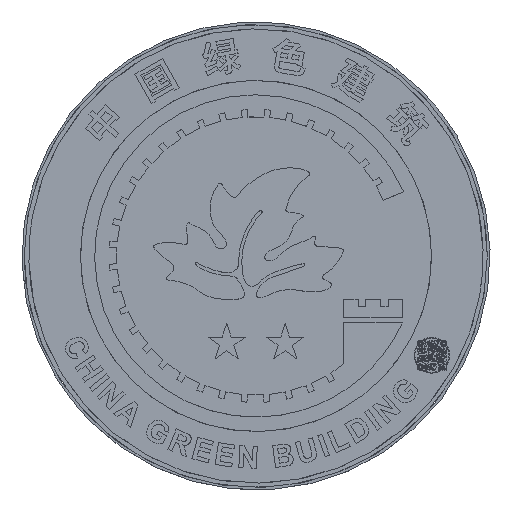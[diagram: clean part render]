
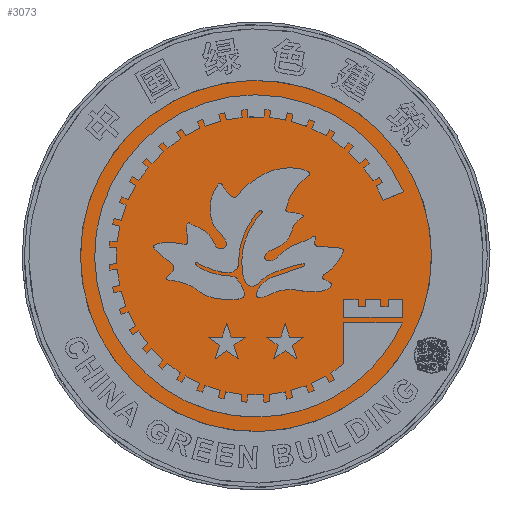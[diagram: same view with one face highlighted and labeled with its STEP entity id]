
A CAD part, top view. The second image highlights one B-rep face of the part: STEP entity #3073.
In plain terms, the highlighted planar face has unit normal (0, 0, 1).
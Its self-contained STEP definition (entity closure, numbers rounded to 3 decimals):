
#3073=ADVANCED_FACE('',(#5339),#32824,.T.);
#5339=FACE_OUTER_BOUND('',#7605,.T.);
#7605=EDGE_LOOP('',(#13247,#13248));
#13247=ORIENTED_EDGE('',*,*,#21331,.T.);
#13248=ORIENTED_EDGE('',*,*,#21334,.T.);
#21331=EDGE_CURVE('',#30754,#30756,#26377,.T.);
#21334=EDGE_CURVE('',#30756,#30754,#26380,.T.);
#26377=B_SPLINE_CURVE_WITH_KNOTS('',3,(#49963,#49964,#49965,#49966,#49967,
#49968,#49969,#49970,#49971,#49972,#49973,#49974,#49975),.UNSPECIFIED.,
 .F.,.F.,(4,3,3,3,4),(-9.,-8.,-7.,-6.,-5.),.UNSPECIFIED.);
#26380=B_SPLINE_CURVE_WITH_KNOTS('',3,(#49991,#49992,#49993,#49994,#49995,
#49996,#49997,#49998,#49999,#50000,#50001,#50002,#50003),.UNSPECIFIED.,
 .F.,.F.,(4,3,3,3,4),(-5.,-4.,-3.,-2.,-1.),.UNSPECIFIED.);
#30754=VERTEX_POINT('',#49945);
#30756=VERTEX_POINT('',#49947);
#32824=PLANE('',#33647);
#33647=AXIS2_PLACEMENT_3D('',#49917,#34453,$);
#34453=DIRECTION('',(0.,0.,1.));
#49917=CARTESIAN_POINT('',(10506.871,2853.292,-10.));
#49945=CARTESIAN_POINT('',(10408.878,2490.165,-10.));
#49947=CARTESIAN_POINT('',(10135.962,2747.521,-10.));
#49963=CARTESIAN_POINT('',(10408.878,2490.165,-10.));
#49964=CARTESIAN_POINT('',(10443.054,2526.41,-10.));
#49965=CARTESIAN_POINT('',(10461.36,2574.547,-10.));
#49966=CARTESIAN_POINT('',(10459.9,2624.34,-10.));
#49967=CARTESIAN_POINT('',(10458.439,2674.14,-10.));
#49968=CARTESIAN_POINT('',(10437.341,2721.123,-10.));
#49969=CARTESIAN_POINT('',(10401.096,2755.299,-10.));
#49970=CARTESIAN_POINT('',(10364.855,2789.479,-10.));
#49971=CARTESIAN_POINT('',(10316.714,2807.781,-10.));
#49972=CARTESIAN_POINT('',(10266.922,2806.321,-10.));
#49973=CARTESIAN_POINT('',(10217.122,2804.861,-10.));
#49974=CARTESIAN_POINT('',(10170.142,2783.766,-10.));
#49975=CARTESIAN_POINT('',(10135.962,2747.521,-10.));
#49991=CARTESIAN_POINT('',(10135.962,2747.521,-10.));
#49992=CARTESIAN_POINT('',(10101.786,2711.276,-10.));
#49993=CARTESIAN_POINT('',(10083.48,2663.141,-10.));
#49994=CARTESIAN_POINT('',(10084.94,2613.343,-10.));
#49995=CARTESIAN_POINT('',(10086.401,2563.547,-10.));
#49996=CARTESIAN_POINT('',(10107.496,2516.564,-10.));
#49997=CARTESIAN_POINT('',(10143.741,2482.384,-10.));
#49998=CARTESIAN_POINT('',(10179.986,2448.208,-10.));
#49999=CARTESIAN_POINT('',(10228.121,2429.905,-10.));
#50000=CARTESIAN_POINT('',(10277.919,2431.366,-10.));
#50001=CARTESIAN_POINT('',(10327.715,2432.826,-10.));
#50002=CARTESIAN_POINT('',(10374.698,2453.92,-10.));
#50003=CARTESIAN_POINT('',(10408.878,2490.165,-10.));
